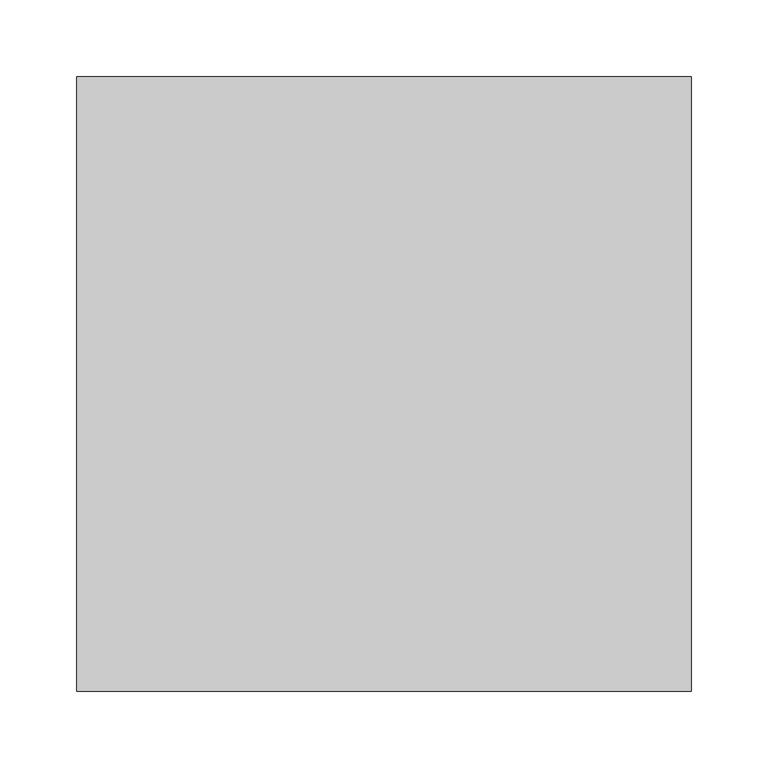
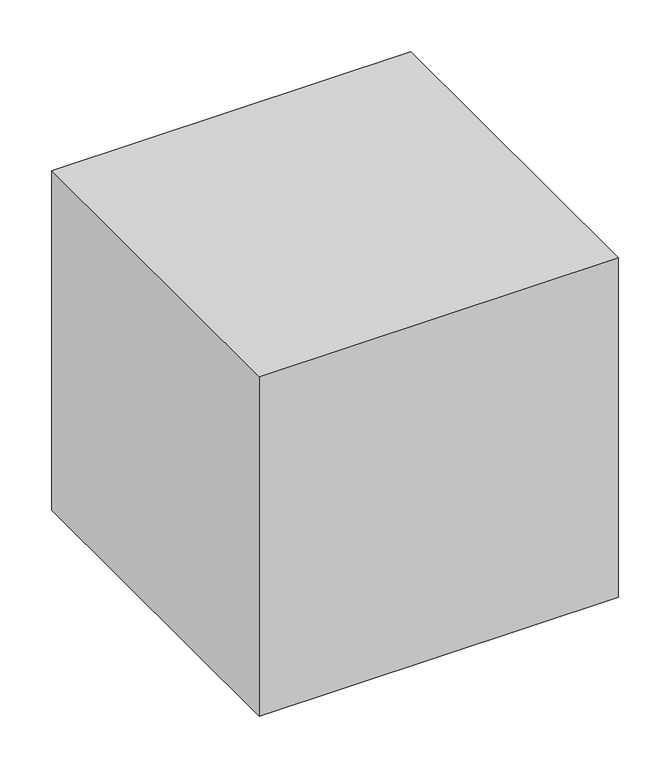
"""IFC4 building model written with IfcOpenShell, lengths in millimetres: proxy geometry, 制気口ボックス : 制気口ボックス."""

from ifc_helpers import new_model, si_unit, frame, origin, place, context, project, spatial, polyline, outline, extrude, source, transform, mapped, element, save


def mechanical_equipment_3669b805(model_context):
    return source(origin(), model_context, "Body", "SweptSolid", [
        extrude(outline(polyline([(200.0, 200.0), (200.0, -200.0), (-200.0, -200.0), (-200.0, 200.0), (200.0, 200.0)])), frame((0.0, 0.0, -200.0), z_axis=(0.0, 0.0, 1.0), x_axis=(1.0, 0.0, 0.0)), (0.0, 0.0, 1.0), 400.0),
    ])


if __name__ == "__main__":
    model = new_model("IFC4")
    model_context = context("Model", 3, world=origin())
    ifc_project = project(units=[si_unit("LENGTHUNIT", "METRE", prefix="MILLI")], contexts=[model_context])
    site = spatial("IfcSite", under=ifc_project)
    building = spatial("IfcBuilding", under=site)
    placement = place(None, origin())
    mechanical_equipment_shape = mechanical_equipment_3669b805(model_context)
    element("IfcBuildingElementProxy", 1, Name="制気口ボックス : 制気口ボックス", ObjectType="制気口ボックス : 制気口ボックス", at=placement, inside=building, context=model_context, shape_type="MappedRepresentation", body=[
        mapped(mechanical_equipment_shape, transform((0.0, 0.0, 0.0), x_axis=(1.0, 0.0, 0.0), y_axis=(0.0, 1.0, 0.0), z_axis=(0.0, 0.0, 1.0))),
    ])
    save(model, "model.ifc")
